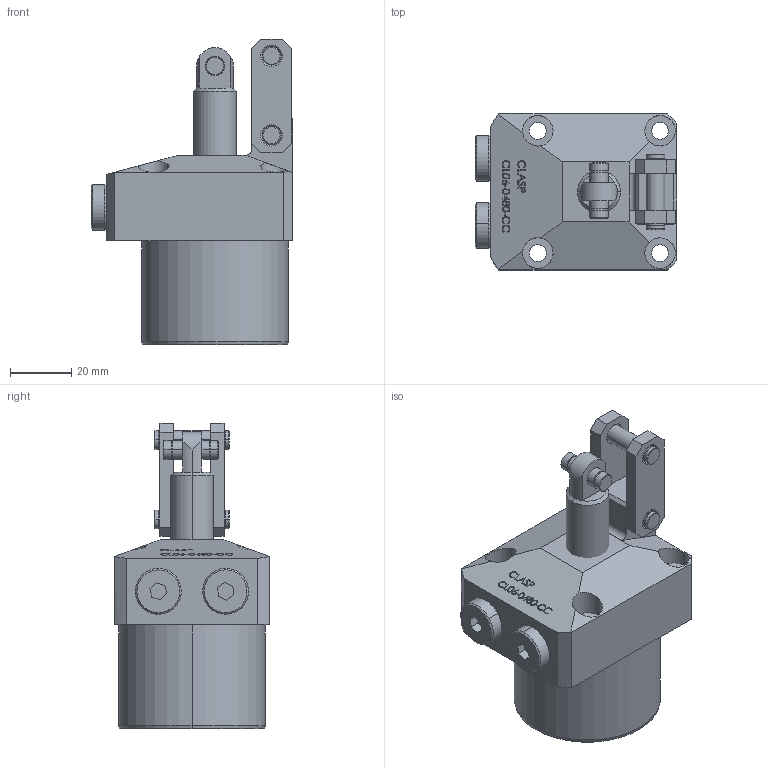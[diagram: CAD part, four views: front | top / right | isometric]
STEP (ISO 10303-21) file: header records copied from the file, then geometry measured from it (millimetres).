
FILE_DESCRIPTION (( 'STEP AP203' ), '1' );
FILE_NAME ('CLO6-0480 cc.STEP', '2022-07-05T17:20:51', ( '' ), ( '' ), 'SwSTEP 2.0', 'SolidWorks 2017', '' );
FILE_SCHEMA (( 'CONFIG_CONTROL_DESIGN' ));
Length unit declared in the file: millimetre
Products named in the file (7): CLO6-0480 Part7 cc; CLO6-0480 cc; CLO6-0480 Part1 cc; CLO6-0480 Part3 cc; CLO6-0480 Part2 cc; CLO6-0480 Part5 cc; CLO6-0480 Part6 cc
Assembly tree (9 placements, depth 2):
  CLO6-0480 cc
    CLO6-0480 Part1 cc
    CLO6-0480 Part3 cc
    CLO6-0480 Part2 cc  x2
    CLO6-0480 Part5 cc  x2
    CLO6-0480 Part6 cc  x2
    CLO6-0480 Part7 cc
Bounding box: 66 x 51 x 100 mm (x, y, z)
Volume: 148368.1 mm3; surface area: 29134.7 mm2
Topology: 9 solids, 9 shells, 427 faces, 1035 edges, 670 vertices
Faces by surface type: plane 181, bspline 110, cylinder 88, cone 48
Entity records: 18394 total; most frequent: CARTESIAN_POINT 9467, ORIENTED_EDGE 1818, DIRECTION 1369, EDGE_CURVE 909, VERTEX_POINT 594, LINE 505, VECTOR 505, AXIS2_PLACEMENT_3D 432
